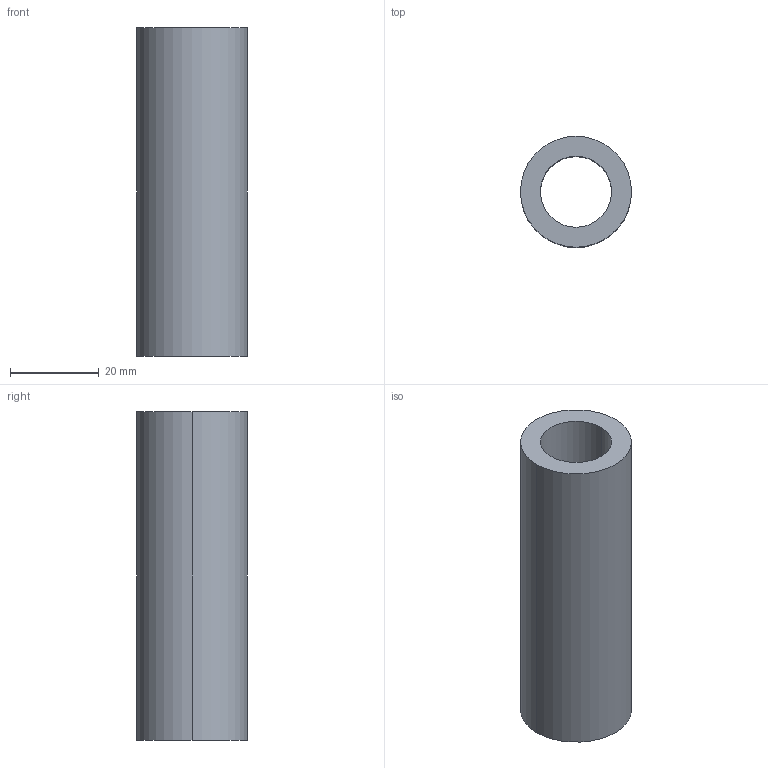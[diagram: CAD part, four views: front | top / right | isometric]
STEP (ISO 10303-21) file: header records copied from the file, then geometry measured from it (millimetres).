
FILE_DESCRIPTION (( 'STEP AP214' ), '1' );
FILE_NAME ('Abstandshalter2.STEP', '2016-12-28T08:47:59', ( '' ), ( '' ), 'SwSTEP 2.0', 'SolidWorks 2016', '' );
FILE_SCHEMA (( 'AUTOMOTIVE_DESIGN' ));
Length unit declared in the file: millimetre
Products named in the file (1): Abstandshalter2
Bounding box: 25 x 25 x 74 mm (x, y, z)
Volume: 21446.1 mm3; surface area: 10111.2 mm2
Topology: 1 solids, 1 shells, 6 faces, 12 edges, 8 vertices
Faces by surface type: cylinder 4, plane 2
Entity records: 202 total; most frequent: DIRECTION 34, CARTESIAN_POINT 27, ORIENTED_EDGE 24, AXIS2_PLACEMENT_3D 15, EDGE_CURVE 12, CIRCLE 8, EDGE_LOOP 8, VERTEX_POINT 8
